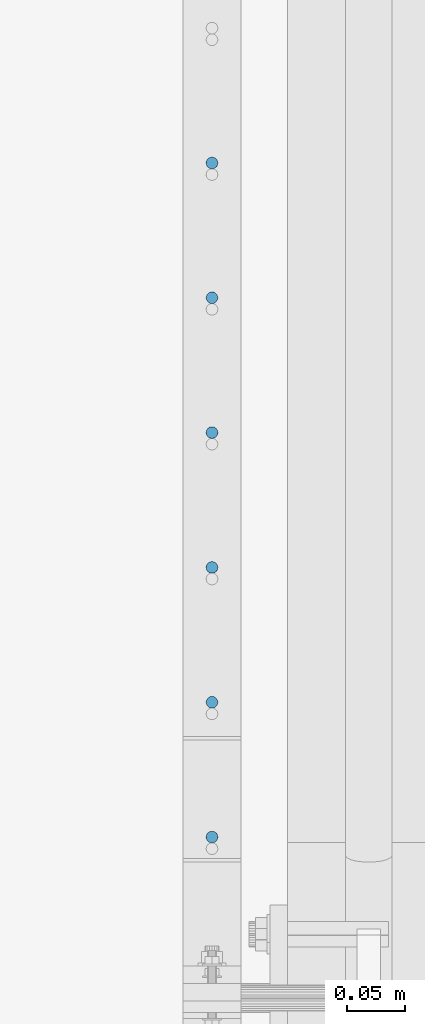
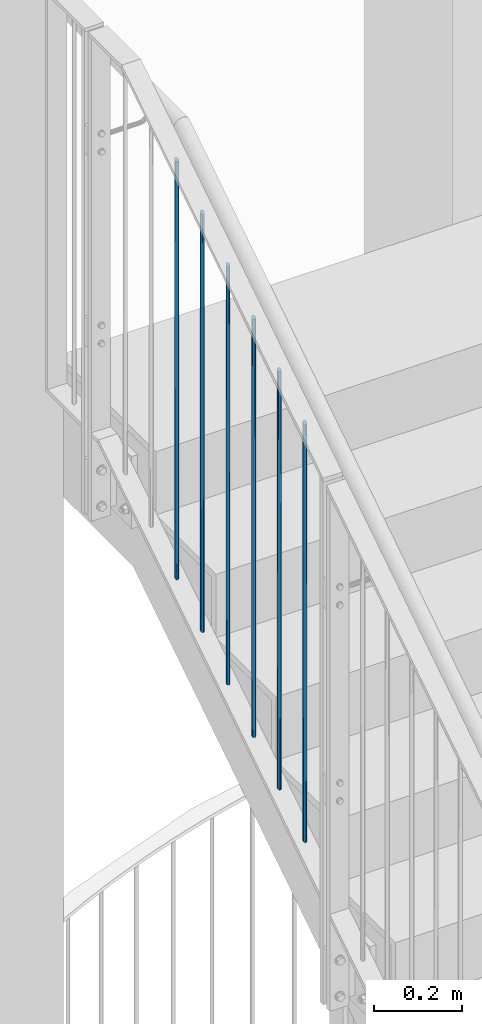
# One storey, part 22 of 296: 6 columns.
"""IFC2X3 building model written with IfcOpenShell, lengths in millimetres."""

import ifcopenshell
import ifcopenshell.guid

model = None  # the IFC model being written
_history = None  # IfcOwnerHistory: only IFC2X3 demands one
_inside = {}  # id of a spatial element -> (the spatial element, [elements in it])
_under = {}  # id of a project, library or spatial element -> (it, [spatial elements below it])
_declared = {}  # id of a project -> (the project, [libraries it declares])
_typed = {}  # id of a type object -> (the type object, [elements of that type])
_made_of = {}  # id of a material, layer set ... -> (it, [elements and type objects made of it])


def new_model(schema):
    """Start an empty IFC model of exactly this schema.

    Asked for "IFC4X3", IfcOpenShell would pick the latest addendum, in which some entities
    have other attributes; the version numbers below select the first issue.
    IFC2X3 requires an IfcOwnerHistory on every rooted entity: one is made here for all.
    """
    global model, _history
    if schema == "IFC4X3":
        model = ifcopenshell.file(schema_version=(4, 3, 0, 0))
    else:
        model = ifcopenshell.file(schema=schema)
    _inside.clear()
    _under.clear()
    _declared.clear()
    _typed.clear()
    _made_of.clear()
    _history = None
    if model.schema == "IFC2X3":
        org = make("IfcOrganization", Name="unknown")
        user = make(
            "IfcPersonAndOrganization",
            ThePerson=make("IfcPerson", FamilyName="unknown"),
            TheOrganization=org,
        )
        app = make(
            "IfcApplication",
            ApplicationDeveloper=org,
            Version="unknown",
            ApplicationFullName="unknown",
            ApplicationIdentifier="unknown",
        )
        _history = make(
            "IfcOwnerHistory",
            OwningUser=user,
            OwningApplication=app,
            ChangeAction="ADDED",
            CreationDate=0,
        )
    return model


def make(cls, **values):
    """One entity of the class cls with the attributes given. An attribute that is None is left unset."""
    return model.create_entity(
        cls, **{name: value for name, value in values.items() if value is not None}
    )


def entity(cls, *values):
    """Any entity or typed value of the class cls, its attributes in the order of the schema. None: left unset."""
    e = model.create_entity(cls)
    for i, value in enumerate(values):
        if value is not None:
            e[i] = value
    return e


def rooted(cls, **values):
    """An entity with a GlobalId (a new one), such as an element, a storey or a relation."""
    return make(cls, GlobalId=ifcopenshell.guid.new(), OwnerHistory=_history, **values)


def si_unit(unit_type, name, prefix=None):
    """IfcSIUnit, for example si_unit("LENGTHUNIT", "METRE", prefix="MILLI")."""
    return make("IfcSIUnit", UnitType=unit_type, Prefix=prefix, Name=name)


def converted_unit(unit_type, name, factor, base, dimensions=None, offset=None):
    """IfcConversionBasedUnit, such as the inch: factor (a typed value) times the base unit."""
    return make(
        "IfcConversionBasedUnit"
        if offset is None
        else "IfcConversionBasedUnitWithOffset",
        ConversionOffset=offset,
        Dimensions=None
        if dimensions is None
        else entity("IfcDimensionalExponents", *dimensions),
        UnitType=unit_type,
        Name=name,
        ConversionFactor=make(
            "IfcMeasureWithUnit", ValueComponent=factor, UnitComponent=base
        ),
    )


def assignment(units):
    """IfcUnitAssignment: the units of a project."""
    return None if units is None else make("IfcUnitAssignment", Units=units)


def point(xyz):
    """IfcCartesianPoint."""
    return None if xyz is None else make("IfcCartesianPoint", Coordinates=xyz)


def direction(xyz):
    """IfcDirection."""
    return None if xyz is None else make("IfcDirection", DirectionRatios=xyz)


def frame(location, z_axis=None, x_axis=None):
    """IfcAxis2Placement3D, a coordinate frame: its origin and axes. An axis left out is left unset."""
    return make(
        "IfcAxis2Placement3D",
        Location=point(location),
        Axis=direction(z_axis),
        RefDirection=direction(x_axis),
    )


def frame_2d(location, x_axis=None):
    """IfcAxis2Placement2D, a coordinate frame in the plane: its origin and x axis."""
    return make(
        "IfcAxis2Placement2D", Location=point(location), RefDirection=direction(x_axis)
    )


def origin():
    """The frame at (0, 0, 0) with its axes left unset."""
    return frame((0.0, 0.0, 0.0))


def origin_with_axes():
    """The frame at (0, 0, 0) with the z axis (0, 0, 1) and the x axis (1, 0, 0) written out."""
    return frame((0.0, 0.0, 0.0), z_axis=(0.0, 0.0, 1.0), x_axis=(1.0, 0.0, 0.0))


def origin_2d():
    """The frame at (0, 0) in the plane with its x axis left unset."""
    return frame_2d((0.0, 0.0))


def place(relative_to, where):
    """IfcLocalPlacement: puts the frame where relative to a parent placement (None: the world)."""
    return make(
        "IfcLocalPlacement", PlacementRelTo=relative_to, RelativePlacement=where
    )


def context(
    kind, dimensions, precision=None, world=None, true_north=None, identifier=None
):
    """IfcGeometricRepresentationContext, for example the 3D "Model" context."""
    return make(
        "IfcGeometricRepresentationContext",
        ContextIdentifier=identifier,
        ContextType=kind,
        CoordinateSpaceDimension=dimensions,
        Precision=precision,
        WorldCoordinateSystem=world,
        TrueNorth=true_north,
    )


def project(units=None, contexts=None):
    """IfcProject with its units and contexts."""
    return rooted(
        "IfcProject",
        Name="project",
        RepresentationContexts=contexts,
        UnitsInContext=assignment(units),
    )


def spatial(cls, under=None, at=None, **own):
    """A site, building, storey or space (cls), placed at a placement, below another one or the project."""
    s = rooted(cls, ObjectPlacement=at, **own)
    if under is not None:
        _under.setdefault(under.id(), (under, []))[1].append(s)
    return s


def profile(cls, at=None, kind="AREA", **sizes):
    """A parametric profile (cls). Its sizes go by their IFC names, for example OverallWidth=200.0."""
    return make(cls, ProfileType=kind, Position=at, **sizes)


def circle(**sizes):
    """IfcCircleProfileDef."""
    return profile("IfcCircleProfileDef", **sizes)


def extrude(swept, where, along, depth):
    """IfcExtrudedAreaSolid: the profile swept, set in the frame where, extruded along a direction by depth."""
    return make(
        "IfcExtrudedAreaSolid",
        SweptArea=swept,
        Position=where,
        ExtrudedDirection=direction(along),
        Depth=depth,
    )


def clip(a, b, op="DIFFERENCE"):
    """IfcBooleanClippingResult: the solid a cut by the half space b."""
    return make(
        "IfcBooleanClippingResult", Operator=op, FirstOperand=a, SecondOperand=b
    )


def halfspace(plane, agree):
    """IfcHalfSpaceSolid: all space on one side of the plane z = 0 of the frame plane."""
    return make(
        "IfcHalfSpaceSolid",
        BaseSurface=make("IfcPlane", Position=plane),
        AgreementFlag=agree,
    )


def shape(context_of_items, identifier, shape_type, items):
    """IfcShapeRepresentation: the items that make up one representation, for example the "Body"."""
    return make(
        "IfcShapeRepresentation",
        ContextOfItems=context_of_items,
        RepresentationIdentifier=identifier,
        RepresentationType=shape_type,
        Items=items,
    )


def material(Name=None, Category=None):
    """IfcMaterial."""
    return make("IfcMaterial", Name=Name, Category=Category)


def made_of(thing, what):
    """Note that an element or type object is made of a material, layer set ...; save() writes the relation."""
    if what is not None:
        _made_of.setdefault(what.id(), (what, []))[1].append(thing)
    return thing


def element(
    cls,
    number,
    at=None,
    inside=None,
    cuts=None,
    type_object=None,
    material=None,
    context=None,
    identifier="Body",
    shape_type=None,
    held_by="IfcProductDefinitionShape",
    body=None,
    shapes=None,
    **own,
):
    """One element of the class cls, such as IfcWall. Its Tag is "e" and its number.

    at: its placement. inside: the storey or other place that contains it. cuts: it is an
    opening in that element (IfcRelVoidsElement). A single representation is given by context,
    identifier, shape_type and body (its items); several are given by shapes. held_by: the class
    of the entity that holds the representations. save() writes the other relations.
    """
    e = rooted(cls, Tag="e%d" % number, ObjectPlacement=at, **own)
    if body is not None:
        shapes = [shape(context, identifier, shape_type, body)]
    if shapes is not None:
        e.Representation = make(held_by, Representations=shapes)
    if inside is not None:
        _inside.setdefault(inside.id(), (inside, []))[1].append(e)
    if cuts is not None:
        rooted(
            "IfcRelVoidsElement", RelatingBuildingElement=cuts, RelatedOpeningElement=e
        )
    if type_object is not None:
        _typed.setdefault(type_object.id(), (type_object, []))[1].append(e)
    return made_of(e, material)


def aggregate(whole, parts):
    """IfcRelAggregates: a whole, such as a stair, and the parts it consists of."""
    return rooted("IfcRelAggregates", RelatingObject=whole, RelatedObjects=parts)


def save(model, path):
    """Write the relations noted so far, then the file.

    IfcRelAggregates (storeys below a building ...), IfcRelContainedInSpatialStructure (elements
    in a storey), IfcRelDefinesByType, IfcRelAssociatesMaterial and IfcRelDeclares: one each for
    every whole, place, type object, material and project.
    """
    for whole, parts in _under.values():
        aggregate(whole, parts)
    for where, things in _inside.values():
        rooted(
            "IfcRelContainedInSpatialStructure",
            RelatedElements=things,
            RelatingStructure=where,
        )
    for kind, things in _typed.values():
        rooted("IfcRelDefinesByType", RelatedObjects=things, RelatingType=kind)
    for what, things in _made_of.values():
        rooted("IfcRelAssociatesMaterial", RelatedObjects=things, RelatingMaterial=what)
    for by, libraries in _declared.values():
        rooted("IfcRelDeclares", RelatingContext=by, RelatedDefinitions=libraries)
    model.write(path)


model = new_model("IFC2X3")

# Units and contexts
model_context = context("Model", 3, precision=1e-09, world=origin_with_axes())
ifc_project = project(units=[si_unit("LENGTHUNIT", "METRE", prefix="MILLI"), si_unit("AREAUNIT", "SQUARE_METRE"), si_unit("VOLUMEUNIT", "CUBIC_METRE"), converted_unit("PLANEANGLEUNIT", "DEGREE", entity("IfcPlaneAngleMeasure", 0.01745329), si_unit("PLANEANGLEUNIT", "RADIAN"), dimensions=[0, 0, 0, 0, 0, 0, 0])], contexts=[model_context])

# Site, building, storey
site_placement = place(None, origin_with_axes())
site = spatial("IfcSite", under=ifc_project, at=site_placement, Name="TZD-S?d | Treppenhausgel?nder", CompositionType="ELEMENT")
building_placement = place(site_placement, origin_with_axes())
building = spatial("IfcBuilding", under=site, at=building_placement, Name="Struktur 1", CompositionType="ELEMENT")
storey_placement = place(building_placement, origin_with_axes())
storey = spatial("IfcBuildingStorey", under=building, at=storey_placement, Name="Default Storey", CompositionType="ELEMENT", Elevation=0.0)

# Columns
ifc_material = material(Name="S235JR")
column_1_placement = place(None, frame((-45.0, -1426.38888888, 6760.111451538), z_axis=(0.0, 0.0, 1.0), x_axis=(0.0, 1.0, 0.0)))
element("IfcColumn", 1, at=column_1_placement, inside=storey, material=ifc_material, Name="-", ObjectType="-", context=model_context, shape_type="Clipping", body=[
    clip(clip(extrude(circle(Radius=5.0, at=origin_2d()), origin(), (0.0, 0.0, 1.0), 1184.929585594), halfspace(frame((-2605.932172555, -45.0, -510.930712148), z_axis=(0.542183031, 0.0, -0.840260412), x_axis=(0.0, 1.0, 0.0)), True)), halfspace(frame((-2079.198491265, -45.0, -1327.248144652), z_axis=(-0.542183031, 0.0, 0.840260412), x_axis=(0.0, -1.0, 0.0)), True)),
])
column_2_placement = place(None, frame((-45.0, -1310.27777777, 6835.032836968), z_axis=(0.0, 0.0, 1.0), x_axis=(0.0, 1.0, 0.0)))
element("IfcColumn", 2, at=column_2_placement, inside=storey, material=ifc_material, Name="-", ObjectType="-", context=model_context, shape_type="Clipping", body=[
    clip(clip(extrude(circle(Radius=5.0, at=origin_2d()), origin(), (0.0, 0.0, 1.0), 1184.929585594), halfspace(frame((-2722.043283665, -45.0, -585.852097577), z_axis=(0.542183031, 0.0, -0.840260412), x_axis=(0.0, 1.0, 0.0)), True)), halfspace(frame((-2195.309602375, -45.0, -1402.169530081), z_axis=(-0.542183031, 0.0, 0.840260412), x_axis=(0.0, -1.0, 0.0)), True)),
])
column_3_placement = place(None, frame((-45.0, -1194.16666666, 6909.954222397), z_axis=(0.0, 0.0, 1.0), x_axis=(0.0, 1.0, 0.0)))
element("IfcColumn", 3, at=column_3_placement, inside=storey, material=ifc_material, Name="-", ObjectType="-", context=model_context, shape_type="Clipping", body=[
    clip(clip(extrude(circle(Radius=5.0, at=origin_2d()), origin(), (0.0, 0.0, 1.0), 1184.929585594), halfspace(frame((-2311.420713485, -45.0, -1477.090915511), z_axis=(-0.542183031, 0.0, 0.840260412), x_axis=(0.0, -1.0, 0.0)), True)), halfspace(frame((-2838.154394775, -45.0, -660.773483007), z_axis=(0.542183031, 0.0, -0.840260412), x_axis=(0.0, 1.0, 0.0)), True)),
])
column_4_placement = place(None, frame((-45.0, -1078.05555555, 6984.875607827), z_axis=(0.0, 0.0, 1.0), x_axis=(0.0, 1.0, 0.0)))
element("IfcColumn", 4, at=column_4_placement, inside=storey, material=ifc_material, Name="-", ObjectType="-", context=model_context, shape_type="Clipping", body=[
    clip(clip(extrude(circle(Radius=5.0, at=origin_2d()), origin(), (0.0, 0.0, 1.0), 1184.929585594), halfspace(frame((-2427.531824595, -45.0, -1552.012300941), z_axis=(-0.542183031, 0.0, 0.840260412), x_axis=(0.0, -1.0, 0.0)), True)), halfspace(frame((-2954.265505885, -45.0, -735.694868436), z_axis=(0.542183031, 0.0, -0.840260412), x_axis=(0.0, 1.0, 0.0)), True)),
])
column_5_placement = place(None, frame((-45.0, -961.94444444, 7059.796993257), z_axis=(0.0, 0.0, 1.0), x_axis=(0.0, 1.0, 0.0)))
element("IfcColumn", 5, at=column_5_placement, inside=storey, material=ifc_material, Name="-", ObjectType="-", context=model_context, shape_type="Clipping", body=[
    clip(clip(extrude(circle(Radius=5.0, at=origin_2d()), origin(), (0.0, 0.0, 1.0), 1184.929585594), halfspace(frame((-3070.376616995, -45.0, -810.616253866), z_axis=(0.542183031, 0.0, -0.840260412), x_axis=(0.0, 1.0, 0.0)), True)), halfspace(frame((-2543.642935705, -45.0, -1626.93368637), z_axis=(-0.542183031, 0.0, 0.840260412), x_axis=(0.0, -1.0, 0.0)), True)),
])
column_6_placement = place(None, frame((-45.0, -845.83333333, 7134.718378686), z_axis=(0.0, 0.0, 1.0), x_axis=(0.0, 1.0, 0.0)))
element("IfcColumn", 6, at=column_6_placement, inside=storey, material=ifc_material, Name="-", ObjectType="-", context=model_context, shape_type="Clipping", body=[
    clip(clip(extrude(circle(Radius=5.0, at=origin_2d()), origin(), (0.0, 0.0, 1.0), 1184.929585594), halfspace(frame((-3186.487728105, -45.0, -885.537639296), z_axis=(0.542183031, 0.0, -0.840260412), x_axis=(0.0, 1.0, 0.0)), True)), halfspace(frame((-2659.754046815, -45.0, -1701.8550718), z_axis=(-0.542183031, 0.0, 0.840260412), x_axis=(0.0, -1.0, 0.0)), True)),
])

save(model, "model.ifc")
